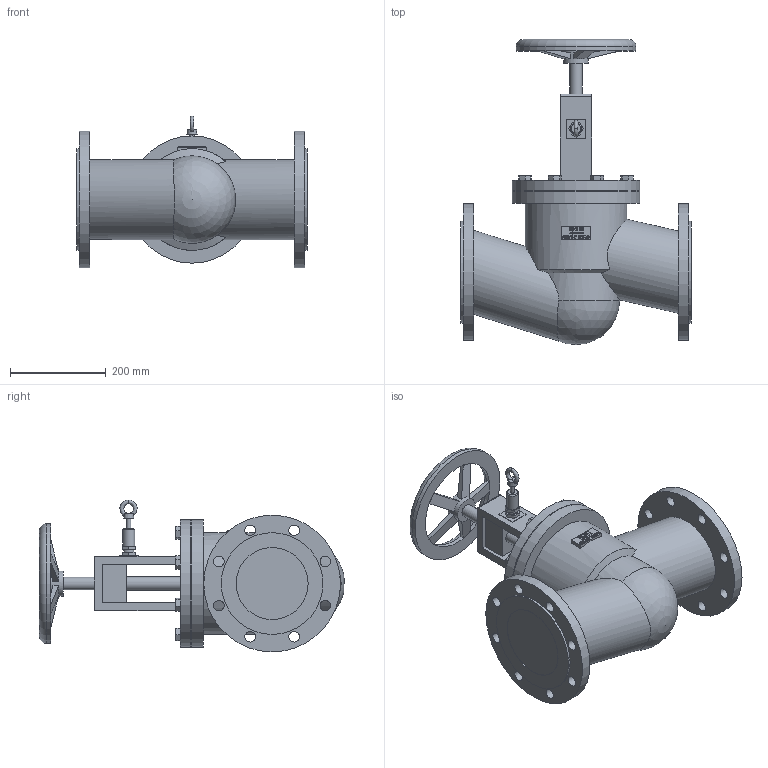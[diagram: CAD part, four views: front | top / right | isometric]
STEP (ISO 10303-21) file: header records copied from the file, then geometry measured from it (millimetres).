
FILE_DESCRIPTION(/* description */ (''),/* implementation_level */ '2;1');
FILE_NAME(/* name */ '100-247M-DN150-PN16.stp',/* time_stamp */ '2024-07-09T08:20:27+02:00',/* author */ ('roger.thijssen'),/* organization */ (''),/* preprocessor_version */ 'ST-DEVELOPER v20',/* originating_system */ 'Autodesk Inventor 2024',/* authorisation */ '');
FILE_SCHEMA (('AUTOMOTIVE_DESIGN { 1 0 10303 214 3 1 1 }'));
Length unit declared in the file: millimetre
Products named in the file (1): 100-247M-DN150-PN16
Bounding box: 480 x 636 x 316.5 mm (x, y, z)
Volume: 20986299.8 mm3; surface area: 916426.1 mm2
Topology: 1 solids, 1 shells, 403 faces, 1061 edges, 707 vertices
Faces by surface type: plane 273, bspline 72, cylinder 52, cone 4, torus 1, sphere 1
Full cylindrical faces by diameter (mm): 9 x1, 21 x1, 22 x16, 25 x1, 26 x1, 28 x1, 52 x1, 150 x2, 167 x2, 190 x1, 195 x1, 212 x3, 250 x1, 265 x2, 285 x2
Entity records: 13985 total; most frequent: CARTESIAN_POINT 3792, ORIENTED_EDGE 2120, DIRECTION 1703, EDGE_CURVE 1060, LINE 757, VECTOR 757, VERTEX_POINT 707, EDGE_LOOP 499
